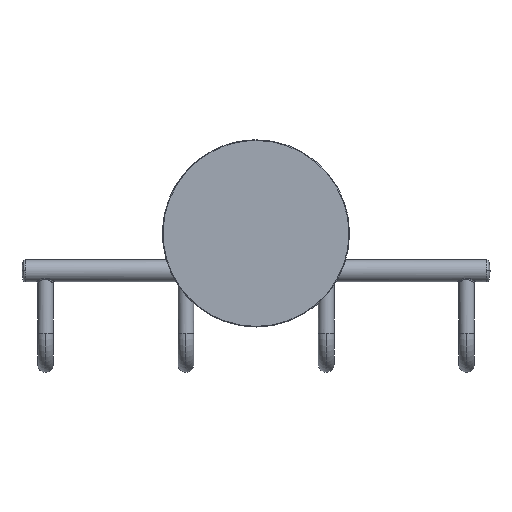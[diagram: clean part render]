
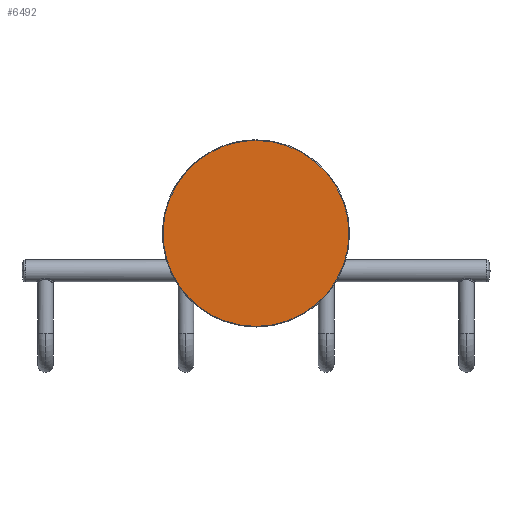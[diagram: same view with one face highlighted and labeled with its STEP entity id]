
A CAD part, front view. The second image highlights one B-rep face of the part: STEP entity #6492.
In plain terms, the highlighted planar face has unit normal (0, -1, 0).
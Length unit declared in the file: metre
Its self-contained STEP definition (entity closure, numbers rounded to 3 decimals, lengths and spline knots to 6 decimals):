
#104=EDGE_CURVE('',#105,#107,#109,.F.);
#105=VERTEX_POINT('',#106);
#106=CARTESIAN_POINT('',(0.0,-0.013,-0.0178));
#107=VERTEX_POINT('',#108);
#108=CARTESIAN_POINT('',(0.0,-0.013,0.0418));
#109=CIRCLE('',#110,0.0298);
#110=AXIS2_PLACEMENT_3D('',#111,#112,#113);
#111=CARTESIAN_POINT('',(0.0,-0.013,0.012));
#112=DIRECTION('',(0.0,1.0,0.0));
#113=DIRECTION('',(0.0,0.0,1.0));
#6492=ADVANCED_FACE('',(#6498),#6493,.F.);
#6493=PLANE('',#6494);
#6494=AXIS2_PLACEMENT_3D('',#6495,#6496,#6497);
#6495=CARTESIAN_POINT('',(0.0,-0.013,0.012));
#6496=DIRECTION('',(0.0,1.0,0.0));
#6497=DIRECTION('',(0.0,0.0,1.0));
#6498=FACE_OUTER_BOUND('',#6499,.T.);
#6499=EDGE_LOOP('',(#6500,#6508));
#6500=ORIENTED_EDGE('',*,*,#6502,.T.);
#6501=CARTESIAN_POINT('',(0.0,-0.013,-0.0178));
#6502=EDGE_CURVE('',#107,#105,#6503,.F.);
#6503=(B_SPLINE_CURVE(3,(#6501,#6504,#6505,#6506),.UNSPECIFIED.,.F.,.U.)B_SPLINE_CURVE_WITH_KNOTS(
  (4,4),(0.0,1.0),.UNSPECIFIED.)BOUNDED_CURVE()CURVE()GEOMETRIC_REPRESENTATION_ITEM(
  )RATIONAL_B_SPLINE_CURVE((1.0,0.333,0.333,1.0)
  )REPRESENTATION_ITEM(''));
#6504=CARTESIAN_POINT('',(-0.0596,-0.013,-0.0178));
#6505=CARTESIAN_POINT('',(-0.0596,-0.013,0.0418));
#6506=CARTESIAN_POINT('',(0.0,-0.013,0.0418));
#6508=ORIENTED_EDGE('',*,*,#104,.T.);
